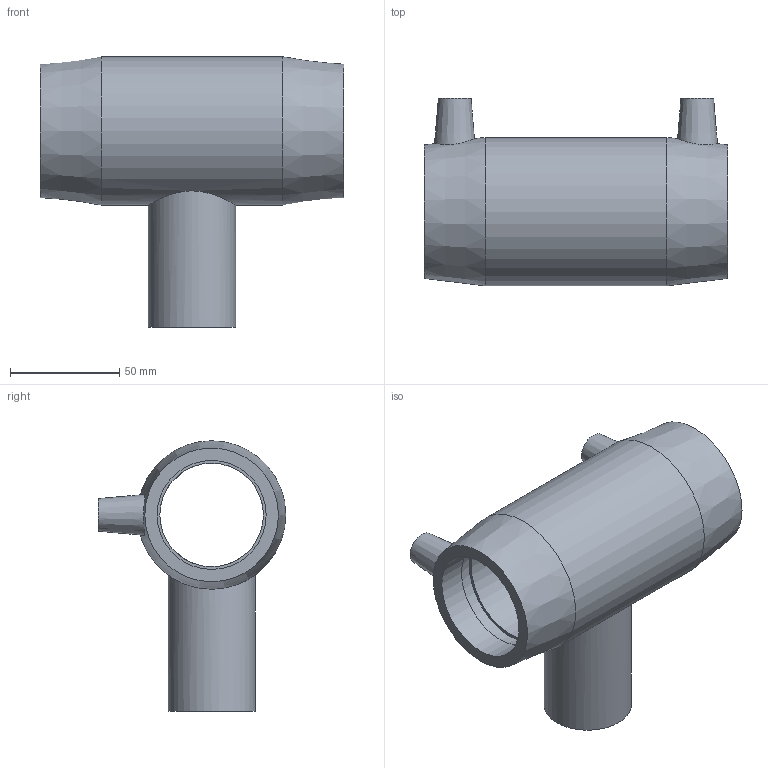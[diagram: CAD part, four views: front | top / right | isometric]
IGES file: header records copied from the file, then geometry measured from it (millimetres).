
Global section: file name: 491404050040.ipt; native system: Autodesk Inventor 2015; preprocessor: unknown; author: KIM; date: 20171106.093843; units: millimetre
Bounding box: 139 x 86 x 124 mm (x, y, z)
Volume: 244114.7 mm3; surface area: 69351.9 mm2
Topology: 1 solids, 1 shells, 31 faces, 72 edges, 52 vertices
Faces by surface type: plane 13, revolution 10, cylinder 4, cone 4
Full cylindrical faces by diameter (mm): 4 x2, 40 x1, 68 x1
